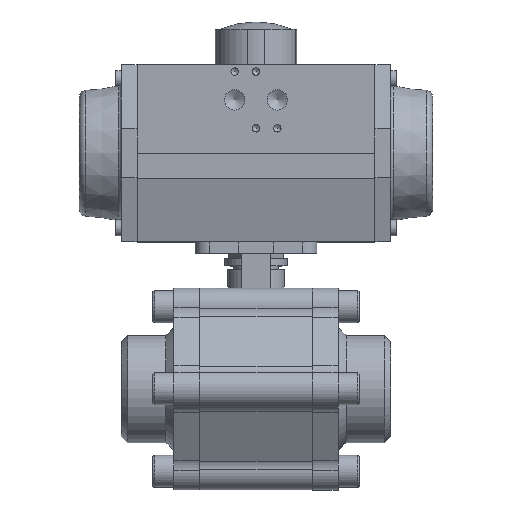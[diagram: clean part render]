
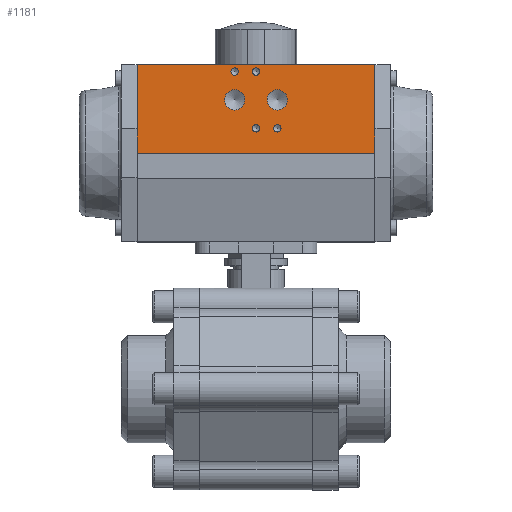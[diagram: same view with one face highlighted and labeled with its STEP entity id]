
A CAD part, top view. The second image highlights one B-rep face of the part: STEP entity #1181.
In plain terms, the highlighted planar face has unit normal (0, 0, 1) as drawn and (1, 0, 0) by its records, which use the part's own axes.
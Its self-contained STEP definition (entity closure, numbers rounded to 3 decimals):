
#5 = FACE_BOUND ( 'NONE', #10653, .T. ) ;
#57 = CARTESIAN_POINT ( 'NONE',  ( 49.5, 0., -67. ) ) ;
#59 = FACE_BOUND ( 'NONE', #3906, .T. ) ;
#152 = ORIENTED_EDGE ( 'NONE', *, *, #389, .F. ) ;
#283 = CARTESIAN_POINT ( 'NONE',  ( 49.5, 30., 6.277 ) ) ;
#389 = EDGE_CURVE ( 'NONE', #8380, #10048, #2364, .T. ) ;
#860 = ORIENTED_EDGE ( 'NONE', *, *, #3562, .F. ) ;
#1092 = ORIENTED_EDGE ( 'NONE', *, *, #3231, .T. ) ;
#1123 = CARTESIAN_POINT ( 'NONE',  ( 49.5, 30., -17.723 ) ) ;
#1181 = ADVANCED_FACE ( 'NONE', ( #8781, #5, #8906, #6984, #59, #2898, #2782 ), #3935, .T. ) ;
#1475 = CARTESIAN_POINT ( 'NONE',  ( 49.5, 0., 67. ) ) ;
#1485 = VECTOR ( 'NONE', #12349, 1000. ) ;
#1595 = EDGE_CURVE ( 'NONE', #5505, #5505, #6233, .T. ) ;
#1708 = DIRECTION ( 'NONE',  ( 0., 1., 0. ) ) ;
#1840 = VECTOR ( 'NONE', #3448, 1000. ) ;
#1957 = EDGE_CURVE ( 'NONE', #8952, #8952, #10780, .T. ) ;
#2011 = DIRECTION ( 'NONE',  ( 0., 0., -1. ) ) ;
#2056 = CARTESIAN_POINT ( 'NONE',  ( 49.5, 14., -14.1 ) ) ;
#2225 = CARTESIAN_POINT ( 'NONE',  ( 49.5, 46., 12. ) ) ;
#2314 = AXIS2_PLACEMENT_3D ( 'NONE', #10682, #10758, #6766 ) ;
#2337 = AXIS2_PLACEMENT_3D ( 'NONE', #8854, #8032, #12642 ) ;
#2364 = LINE ( 'NONE', #1475, #1840 ) ;
#2483 = DIRECTION ( 'NONE',  ( 1., 0., 0. ) ) ;
#2782 = FACE_OUTER_BOUND ( 'NONE', #3533, .T. ) ;
#2898 = FACE_BOUND ( 'NONE', #7551, .T. ) ;
#2942 = EDGE_CURVE ( 'NONE', #12442, #10048, #3234, .T. ) ;
#2958 = ORIENTED_EDGE ( 'NONE', *, *, #1595, .F. ) ;
#3026 = EDGE_CURVE ( 'NONE', #7574, #8380, #9406, .T. ) ;
#3060 = VERTEX_POINT ( 'NONE', #10930 ) ;
#3173 = EDGE_LOOP ( 'NONE', ( #6720 ) ) ;
#3231 = EDGE_CURVE ( 'NONE', #7574, #12442, #8779, .T. ) ;
#3234 = LINE ( 'NONE', #7180, #8060 ) ;
#3418 = CARTESIAN_POINT ( 'NONE',  ( 49.5, 50., 67. ) ) ;
#3448 = DIRECTION ( 'NONE',  ( 0., 1., 0. ) ) ;
#3526 = CIRCLE ( 'NONE', #3918, 2.1 ) ;
#3533 = EDGE_LOOP ( 'NONE', ( #7315, #152, #9956, #1092 ) ) ;
#3562 = EDGE_CURVE ( 'NONE', #5853, #5853, #4163, .T. ) ;
#3593 = CARTESIAN_POINT ( 'NONE',  ( 49.5, 46., 0. ) ) ;
#3736 = EDGE_LOOP ( 'NONE', ( #4916 ) ) ;
#3874 = CARTESIAN_POINT ( 'NONE',  ( 49.5, 50., -67. ) ) ;
#3906 = EDGE_LOOP ( 'NONE', ( #860 ) ) ;
#3918 = AXIS2_PLACEMENT_3D ( 'NONE', #3593, #2483, #10421 ) ;
#3935 = PLANE ( 'NONE',  #12190 ) ;
#4063 = DIRECTION ( 'NONE',  ( 1., 0., 0. ) ) ;
#4163 = CIRCLE ( 'NONE', #2314, 5.723 ) ;
#4191 = DIRECTION ( 'NONE',  ( 0., 0., -1. ) ) ;
#4448 = ORIENTED_EDGE ( 'NONE', *, *, #4966, .F. ) ;
#4916 = ORIENTED_EDGE ( 'NONE', *, *, #12504, .F. ) ;
#4966 = EDGE_CURVE ( 'NONE', #3060, #3060, #3526, .T. ) ;
#5505 = VERTEX_POINT ( 'NONE', #2056 ) ;
#5808 = CIRCLE ( 'NONE', #9507, 2.1 ) ;
#5853 = VERTEX_POINT ( 'NONE', #1123 ) ;
#5887 = ORIENTED_EDGE ( 'NONE', *, *, #6014, .F. ) ;
#6014 = EDGE_CURVE ( 'NONE', #12257, #12257, #7656, .T. ) ;
#6153 = DIRECTION ( 'NONE',  ( 0., 0., -1. ) ) ;
#6233 = CIRCLE ( 'NONE', #2337, 2.1 ) ;
#6720 = ORIENTED_EDGE ( 'NONE', *, *, #1957, .F. ) ;
#6766 = DIRECTION ( 'NONE',  ( 0., 0., -1. ) ) ;
#6815 = CARTESIAN_POINT ( 'NONE',  ( 49.5, 14., -2.1 ) ) ;
#6919 = DIRECTION ( 'NONE',  ( 1., 0., 0. ) ) ;
#6984 = FACE_BOUND ( 'NONE', #7790, .T. ) ;
#7180 = CARTESIAN_POINT ( 'NONE',  ( 49.5, 50., -67. ) ) ;
#7315 = ORIENTED_EDGE ( 'NONE', *, *, #2942, .T. ) ;
#7551 = EDGE_LOOP ( 'NONE', ( #5887 ) ) ;
#7574 = VERTEX_POINT ( 'NONE', #8709 ) ;
#7656 = CIRCLE ( 'NONE', #10736, 5.722 ) ;
#7790 = EDGE_LOOP ( 'NONE', ( #4448 ) ) ;
#7929 = AXIS2_PLACEMENT_3D ( 'NONE', #2225, #10147, #6153 ) ;
#8032 = DIRECTION ( 'NONE',  ( 1., 0., 0. ) ) ;
#8060 = VECTOR ( 'NONE', #9265, 1000. ) ;
#8380 = VERTEX_POINT ( 'NONE', #8935 ) ;
#8437 = CARTESIAN_POINT ( 'NONE',  ( 49.5, 0., -67. ) ) ;
#8709 = CARTESIAN_POINT ( 'NONE',  ( 49.5, 0., -67. ) ) ;
#8779 = LINE ( 'NONE', #57, #9907 ) ;
#8781 = FACE_BOUND ( 'NONE', #3173, .T. ) ;
#8854 = CARTESIAN_POINT ( 'NONE',  ( 49.5, 14., -12. ) ) ;
#8906 = FACE_BOUND ( 'NONE', #3736, .T. ) ;
#8935 = CARTESIAN_POINT ( 'NONE',  ( 49.5, 0., 67. ) ) ;
#8952 = VERTEX_POINT ( 'NONE', #9976 ) ;
#9020 = CARTESIAN_POINT ( 'NONE',  ( 49.5, 14., 0. ) ) ;
#9202 = CARTESIAN_POINT ( 'NONE',  ( 49.5, 0., -67. ) ) ;
#9265 = DIRECTION ( 'NONE',  ( 0., 0., 1. ) ) ;
#9406 = LINE ( 'NONE', #8437, #1485 ) ;
#9507 = AXIS2_PLACEMENT_3D ( 'NONE', #9020, #10884, #4191 ) ;
#9907 = VECTOR ( 'NONE', #1708, 1000. ) ;
#9956 = ORIENTED_EDGE ( 'NONE', *, *, #3026, .F. ) ;
#9976 = CARTESIAN_POINT ( 'NONE',  ( 49.5, 46., 9.9 ) ) ;
#10048 = VERTEX_POINT ( 'NONE', #3418 ) ;
#10147 = DIRECTION ( 'NONE',  ( 1., 0., 0. ) ) ;
#10169 = DIRECTION ( 'NONE',  ( 0., 1., 0. ) ) ;
#10421 = DIRECTION ( 'NONE',  ( 0., 0., -1. ) ) ;
#10653 = EDGE_LOOP ( 'NONE', ( #2958 ) ) ;
#10682 = CARTESIAN_POINT ( 'NONE',  ( 49.5, 30., -12. ) ) ;
#10736 = AXIS2_PLACEMENT_3D ( 'NONE', #11787, #6919, #2011 ) ;
#10758 = DIRECTION ( 'NONE',  ( 1., 0., 0. ) ) ;
#10780 = CIRCLE ( 'NONE', #7929, 2.1 ) ;
#10884 = DIRECTION ( 'NONE',  ( 1., 0., 0. ) ) ;
#10915 = VERTEX_POINT ( 'NONE', #6815 ) ;
#10930 = CARTESIAN_POINT ( 'NONE',  ( 49.5, 46., -2.1 ) ) ;
#11787 = CARTESIAN_POINT ( 'NONE',  ( 49.5, 30., 12. ) ) ;
#12190 = AXIS2_PLACEMENT_3D ( 'NONE', #9202, #4063, #10169 ) ;
#12257 = VERTEX_POINT ( 'NONE', #283 ) ;
#12349 = DIRECTION ( 'NONE',  ( 0., 0., 1. ) ) ;
#12442 = VERTEX_POINT ( 'NONE', #3874 ) ;
#12504 = EDGE_CURVE ( 'NONE', #10915, #10915, #5808, .T. ) ;
#12642 = DIRECTION ( 'NONE',  ( 0., 0., -1. ) ) ;
